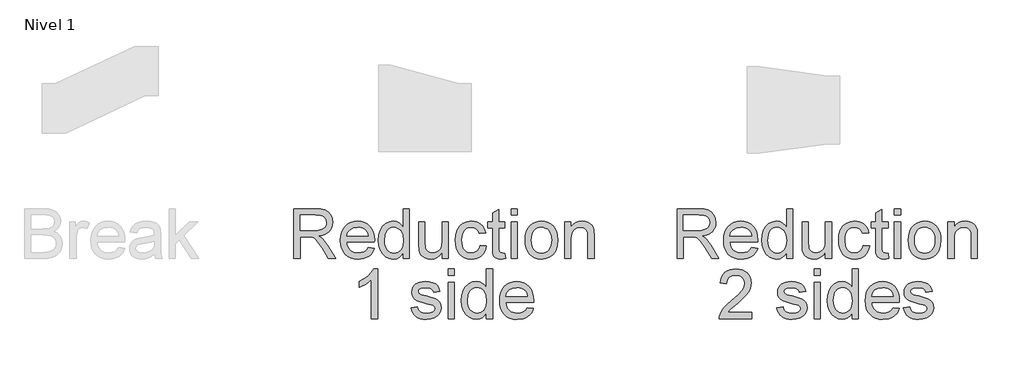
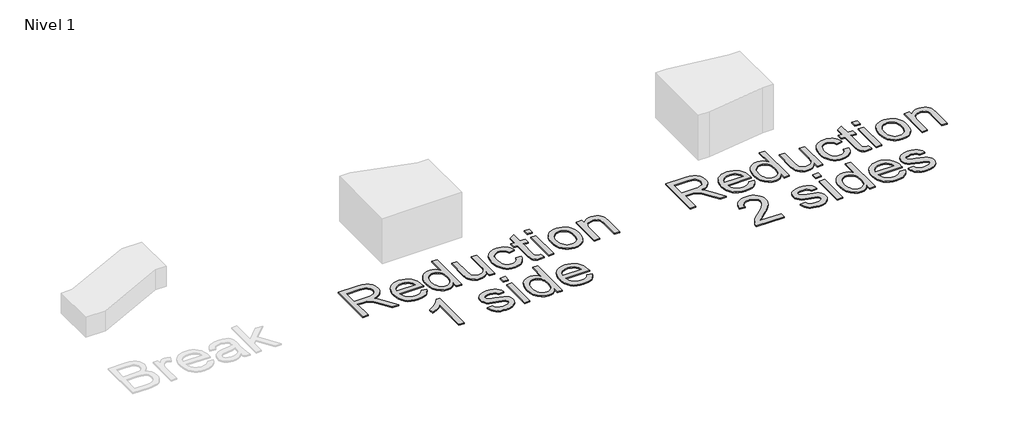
# One storey, part 5 of 6: 2 proxies.
"""IFC4 building model written with IfcOpenShell, lengths in millimetres."""

from ifc_helpers import new_model, si_unit, origin, origin_with_axes, place, context, project, spatial, polyline, outline, extrude, element, save

model = new_model("IFC4")

# Units and contexts
model_context = context("Model", 3, world=origin())
ifc_project = project(units=[si_unit("LENGTHUNIT", "METRE", prefix="MILLI")], contexts=[model_context])

# Site, building, storey
site = spatial("IfcSite", under=ifc_project)
building = spatial("IfcBuilding", under=site)
storey = spatial("IfcBuildingStorey", under=building, Name="Nivel 1", Elevation=0.0)

# Proxies
placement = place(None, origin())
element("IfcBuildingElementProxy", 1, Name="Texto de modelo 1", ObjectType="Texto de modelo 1", at=placement, inside=storey, context=model_context, shape_type="SweptSolid", body=[
    extrude(outline(polyline([(4836.6216122, -1016.3248037), (4836.6216122, -614.4995631), (5009.7714046, -614.4995631), (5056.308477, -617.2096271), (5090.1658833, -625.3398192), (5114.9120788, -640.3494046), (5134.115519, -663.6976486), (5146.4395658, -692.6499616), (5150.5475814, -724.4717542), (5148.8461272, -745.1099341), (5143.7417645, -764.0558569), (5135.2344934, -781.3095224), (5123.3243138, -796.8709308), (5107.8579416, -810.2434414), (5088.6820926, -820.9304133), (5065.7967668, -828.9318467), (5039.2019642, -834.2477415), (5067.749607, -855.7320501), (5108.4618812, -907.4317331), (5175.4654552, -1016.3248037), (5117.0948453, -1016.3248037), (5064.8065511, -933.03632), (5027.0373329, -877.9030716), (5012.9965034, -861.8266285), (5000.5007783, -851.8570264), (4976.6129741, -842.2920945), (4947.4767201, -840.5262609), (4886.8497673, -840.5262609), (4886.8497673, -1016.3248037), (4836.6216122, -1016.3248037)]), holes=[polyline([(4886.8497673, -790.2981059), (4999.274505, -790.2981059), (5031.5622814, -788.5200095), (5056.6150453, -783.1857206), (5075.4751289, -773.9396198), (5089.1848646, -760.4260878), (5097.5357859, -744.0798645), (5100.3194263, -726.3356896), (5095.0096629, -701.8347488), (5079.0803725, -682.0917483), (5066.9188069, -674.4949851), (5051.6731638, -669.0687257), (5011.9296456, -664.7277182), (4886.8497673, -664.7277182), (4886.8497673, -790.2981059)])]), origin_with_axes(), (0.0, 0.0, 1.0), 10.0),
    extrude(outline(polyline([(5438.7708619, -928.4255323), (5488.0179983, -934.7040517), (5480.4672204, -954.428658), (5470.2738234, -971.8110823), (5457.4378075, -986.8513245), (5441.9591725, -999.5493847), (5423.9973341, -1009.6354827), (5403.7117078, -1016.8398385), (5356.1690912, -1022.6033231), (5325.0033549, -1020.1170539), (5297.2343956, -1012.6582465), (5272.8622134, -1000.2269007), (5251.8868083, -982.8230167), (5235.0194189, -960.9309723), (5222.9712835, -935.0351455), (5215.7424023, -905.1355363), (5213.3327753, -871.2321448), (5215.7669278, -836.179122), (5223.0693854, -805.2831658), (5235.2401481, -778.5442761), (5252.2792158, -755.962453), (5273.1994386, -738.0220743), (5297.0136664, -725.2075182), (5323.7218993, -717.5187845), (5353.3241371, -714.9558732), (5381.9729475, -717.5126531), (5407.881037, -725.1829927), (5431.0484057, -737.966892), (5451.4750535, -755.8643511), (5468.1493049, -778.3971233), (5480.0594845, -805.0869621), (5487.2055922, -835.9338674), (5489.5876282, -870.9378392), (5489.2933226, -884.4758966), (5263.5609303, -884.4758966), (5266.4702638, -904.519334), (5272.2552081, -922.0734365), (5280.9157634, -937.1382042), (5292.4519297, -949.7136371), (5306.2260447, -959.6280569), (5321.6004464, -966.7097853), (5357.1501099, -972.375168), (5383.8828682, -969.7509431), (5406.3972463, -961.8782684), (5424.6932442, -948.2666346), (5438.7708619, -928.4255323)]), holes=[polyline([(5263.5609303, -834.2477415), (5439.3594731, -834.2477415), (5432.5659189, -807.711187), (5419.2485907, -788.728476), (5405.5511177, -778.4277801), (5389.9651839, -771.0701402), (5372.4907891, -766.6555563), (5353.1279334, -765.1840283), (5319.2705271, -769.8806551), (5291.2747073, -783.9705355), (5271.8137498, -805.9330907), (5263.5609303, -834.2477415)])]), origin_with_axes(), (0.0, 0.0, 1.0), 10.0),
    extrude(outline(polyline([(5721.8928454, -1016.3248037), (5721.8928454, -968.9416027), (5706.8648659, -992.4186054), (5688.6608385, -1009.187893), (5667.2807632, -1019.2494656), (5642.72464, -1022.6033231), (5610.2529226, -1017.7472807), (5580.5280574, -1003.1791537), (5555.3649289, -979.9167489), (5536.5784217, -948.9778731), (5524.8797742, -911.6133251), (5520.9802251, -869.0739038), (5524.5732059, -827.0617799), (5535.3521484, -789.1208835), (5553.3047897, -757.4094555), (5578.4188673, -734.085737), (5608.7936573, -719.7383392), (5642.5284363, -714.9558732), (5667.1029536, -718.3771758), (5688.8325168, -728.6410835), (5707.251142, -744.3741701), (5721.8928454, -764.2030097), (5721.8928454, -614.4995631), (5772.1210005, -614.4995631), (5772.1210005, -1016.3248037), (5721.8928454, -1016.3248037)]), holes=[polyline([(5571.2083802, -868.8777), (5572.6247258, -893.2345538), (5576.8737629, -914.3111264), (5583.9554913, -932.1074179), (5593.8699111, -946.6234283), (5618.5670557, -965.9372331), (5632.4423383, -970.7656843), (5647.3354277, -972.375168), (5662.2990278, -970.8392607), (5676.091537, -966.2315387), (5700.1632822, -947.8006507), (5709.6699661, -933.8916456), (5716.4604546, -916.7391476), (5721.8928454, -872.7036728), (5716.3623527, -824.5601823), (5709.4492369, -806.0250612), (5699.7708747, -791.1810226), (5688.0691616, -779.8073376), (5675.0859929, -771.6832769), (5660.8213685, -766.8088405), (5645.2752885, -765.1840283), (5630.0878935, -766.7444611), (5616.2126109, -771.4257595), (5603.6494408, -779.2279235), (5592.3983831, -790.1509531), (5583.1277568, -804.4339715), (5576.5058809, -822.3161022), (5571.2083802, -868.8777)])]), origin_with_axes(), (0.0, 0.0, 1.0), 10.0),
    extrude(outline(polyline([(6035.8188146, -1016.3248037), (6035.8188146, -965.6061393), (6017.645444, -990.5424072), (5996.4799666, -1008.3540271), (5972.3223822, -1019.0409991), (5945.172691, -1022.6033231), (5920.7085383, -1020.1017255), (5897.9366428, -1012.5969328), (5878.8313045, -1001.3152183), (5865.3668235, -987.4828553), (5856.3046637, -970.6829108), (5850.406289, -950.498452), (5847.4632331, -903.8019641), (5847.4632331, -721.2343926), (5897.6913881, -721.2343926), (5897.6913881, -880.1594145), (5900.732546, -931.3685883), (5908.0533977, -948.4505756), (5920.5981737, -961.43681), (5937.5330082, -969.6405785), (5958.0240354, -972.375168), (5979.6922849, -969.5792648), (5999.9625828, -961.1915554), (6016.6766881, -947.9845917), (6027.6763598, -930.7309262), (6033.7832009, -907.1006393), (6035.8188146, -874.763812), (6035.8188146, -721.2343926), (6086.0469697, -721.2343926), (6086.0469697, -1016.3248037), (6035.8188146, -1016.3248037)])), origin_with_axes(), (0.0, 0.0, 1.0), 10.0),
    extrude(outline(polyline([(6343.4662644, -909.5899742), (6393.6944195, -915.8684935), (6388.2313719, -939.5692911), (6379.6903782, -960.5416305), (6368.0714385, -978.7855118), (6353.3745528, -994.3009349), (6336.2189891, -1006.6832297), (6317.2240154, -1015.527726), (6296.3896318, -1020.8344238), (6273.7158381, -1022.6033231), (6245.5452744, -1020.135448), (6220.2871097, -1012.7318229), (6197.9413442, -1000.3924476), (6178.5079778, -983.1173223), (6162.7779568, -961.2314092), (6151.5422276, -935.059671), (6144.80079, -904.6021074), (6142.5536441, -869.8587187), (6146.3918796, -825.1610563), (6157.9065861, -786.4230822), (6177.2817045, -755.1408499), (6204.7011759, -732.8104127), (6237.5039871, -719.4195081), (6273.0291251, -714.9558732), (6295.3135769, -716.4887149), (6315.4704446, -721.0872398), (6333.499728, -728.7514481), (6349.4014273, -739.4813396), (6362.9057622, -753.0316597), (6373.7429526, -769.1571539), (6381.9129986, -787.857822), (6387.4159001, -809.133664), (6337.1877451, -815.4121834), (6328.0765343, -793.4986792), (6313.888552, -777.790118), (6295.4086131, -768.3355507), (6273.4215326, -765.1840283), (6256.3548737, -766.7352641), (6240.9620778, -771.3889713), (6227.2431451, -779.14515), (6215.1980754, -790.0038003), (6205.3909546, -804.216308), (6198.3858683, -822.0340593), (6194.1828165, -843.4570542), (6192.7817992, -868.4852926), (6198.2632409, -915.5619252), (6205.1150431, -933.4992382), (6214.7075661, -947.7025489), (6226.5135125, -958.4968197), (6240.0055847, -966.2070132), (6255.1837826, -970.8331293), (6272.0481064, -972.375168), (6298.0573635, -968.5246698), (6319.3822565, -956.9731751), (6334.8946139, -937.4263785), (6343.4662644, -909.5899742)])), origin_with_axes(), (0.0, 0.0, 1.0), 10.0),
    extrude(outline(polyline([(6544.3788847, -974.4353072), (6550.6574041, -1017.7963317), (6513.0843897, -1022.6033231), (6488.9758563, -1020.5186584), (6470.9986894, -1014.2646645), (6458.2944979, -1004.6261562), (6450.0048902, -992.3879485), (6445.4431535, -971.3696239), (6443.9225746, -935.3907648), (6443.9225746, -771.4625477), (6406.2514583, -771.4625477), (6406.2514583, -721.2343926), (6443.9225746, -721.2343926), (6443.9225746, -649.521929), (6494.1507297, -619.9932676), (6494.1507297, -721.2343926), (6544.3788847, -721.2343926), (6544.3788847, -771.4625477), (6494.1507297, -771.4625477), (6494.1507297, -933.9192368), (6496.79948, -959.8181292), (6505.3833932, -968.9906536), (6522.5021688, -972.375168), (6544.3788847, -974.4353072)])), origin_with_axes(), (0.0, 0.0, 1.0), 10.0),
    extrude(outline(polyline([(6594.6070398, -664.7277182), (6594.6070398, -614.4995631), (6644.8351949, -614.4995631), (6644.8351949, -664.7277182), (6594.6070398, -664.7277182)])), origin_with_axes(), (0.0, 0.0, 1.0), 10.0),
    extrude(outline(polyline([(6594.6070398, -1016.3248037), (6594.6070398, -721.2343926), (6644.8351949, -721.2343926), (6644.8351949, -1016.3248037), (6594.6070398, -1016.3248037)])), origin_with_axes(), (0.0, 0.0, 1.0), 10.0),
    extrude(outline(polyline([(6707.6203887, -868.7795982), (6710.3365841, -830.5627902), (6718.4851703, -797.6312203), (6732.0661473, -769.9848884), (6751.0795151, -747.6237944), (6770.2216416, -733.3315789), (6791.3503308, -723.1228535), (6814.4655829, -716.9976183), (6839.5673977, -714.9558732), (6867.278109, -717.4421424), (6892.3339385, -724.9009498), (6914.7348863, -737.3322956), (6934.4809524, -754.7361797), (6950.5972495, -776.5239908), (6962.1088903, -802.1071179), (6969.0158747, -831.4855609), (6971.3182029, -864.6593198), (6967.2469755, -915.4025097), (6955.0332932, -954.0301192), (6935.0327754, -982.9579067), (6907.6010413, -1004.6016308), (6875.0189593, -1018.1029), (6839.5673977, -1022.6033231), (6811.4520162, -1020.126251), (6786.1631947, -1012.6950347), (6763.7009332, -1000.3096742), (6744.0652317, -982.9701695), (6728.1206129, -960.9708262), (6716.7315995, -934.6059498), (6709.8981914, -903.8755405), (6707.6203887, -868.7795982)]), holes=[polyline([(6757.8485438, -868.6814963), (6759.3016777, -893.0444814), (6763.6610793, -914.1394482), (6770.9267487, -931.9663965), (6781.0986859, -946.5253265), (6793.4717837, -957.8346321), (6807.3409349, -965.9127076), (6822.7061396, -970.7595529), (6839.5673977, -972.375168), (6856.3428166, -970.7503559), (6871.6467076, -965.8759194), (6885.4790707, -957.7518587), (6897.8399057, -946.3781737), (6908.0118429, -931.6751566), (6915.2775123, -913.5630997), (6919.6369139, -892.042003), (6921.0900478, -867.1118665), (6919.6277169, -843.5214335), (6915.2407241, -822.9782898), (6907.9290694, -805.4824352), (6897.6927529, -791.0338698), (6885.2859326, -779.7245642), (6871.4627666, -771.6464887), (6856.223255, -766.7996434), (6839.5673977, -765.1840283), (6822.7061396, -766.793512), (6807.3409349, -771.6219632), (6793.4717837, -779.6693819), (6781.0986859, -790.935768), (6770.9267487, -805.4517784), (6763.6610793, -823.2480699), (6759.3016777, -844.3246425), (6757.8485438, -868.6814963)])]), origin_with_axes(), (0.0, 0.0, 1.0), 10.0),
    extrude(outline(polyline([(7027.8248773, -1016.3248037), (7027.8248773, -721.2343926), (7078.0530324, -721.2343926), (7078.0530324, -762.4371761), (7095.5029017, -741.6641061), (7116.4599127, -726.826199), (7140.9240654, -717.9234547), (7168.8953597, -714.9558732), (7193.653818, -717.3471062), (7216.3276117, -724.5208051), (7235.2367462, -735.5817904), (7248.7012272, -749.6348827), (7257.8369634, -766.6432936), (7263.7598636, -786.570235), (7266.4086139, -835.1306583), (7266.4086139, -1016.3248037), (7216.1804589, -1016.3248037), (7216.1804589, -841.899687), (7214.7334563, -815.9272182), (7210.3924488, -797.459542), (7202.384884, -784.2280529), (7189.9382099, -773.9641453), (7173.984394, -767.3790576), (7155.4554042, -765.1840283), (7126.0371073, -770.1136471), (7100.959818, -784.9025033), (7090.9380993, -796.9751641), (7083.7797288, -813.4746716), (7079.4847065, -834.4010257), (7078.0530324, -859.7542265), (7078.0530324, -1016.3248037), (7027.8248773, -1016.3248037)])), origin_with_axes(), (0.0, 0.0, 1.0), 10.0),
    extrude(outline(polyline([(5514.7017057, -1504.2240751), (5464.4735506, -1504.2240751), (5464.4735506, -1191.0829208), (5443.5042769, -1208.0422808), (5416.8941459, -1224.9771153), (5364.0172405, -1250.3364475), (5364.0172405, -1202.8551446), (5403.4664531, -1181.3953616), (5437.6426904, -1155.8643511), (5464.5839152, -1128.7146599), (5482.3280901, -1102.3988345), (5514.7017057, -1102.3988345), (5514.7017057, -1504.2240751)])), origin_with_axes(), (0.0, 0.0, 1.0), 10.0),
    extrude(outline(polyline([(5784.6780392, -1416.3248037), (5834.9061943, -1410.0462843), (5842.8279199, -1431.5305928), (5858.1563364, -1447.3249932), (5880.9895456, -1457.0370778), (5911.4256493, -1460.2744394), (5941.493871, -1457.306858), (5962.634823, -1448.4041137), (5975.1428109, -1435.5037184), (5979.3121401, -1420.5431839), (5975.1182854, -1407.7408905), (5962.5367212, -1397.9797549), (5910.8370381, -1383.6568825), (5835.2004999, -1359.0823652), (5816.0583734, -1346.7337929), (5802.1892222, -1330.3875696), (5793.7647245, -1311.0860276), (5790.9565586, -1289.8714992), (5793.2129015, -1270.4105417), (5799.9819302, -1252.4456376), (5810.6505081, -1236.6880254), (5824.6054984, -1223.8489438), (5856.5376556, -1208.9865112), (5877.4210902, -1204.3879863), (5899.7515273, -1202.8551446), (5932.443974, -1205.319954), (5960.8689895, -1212.7143821), (5983.7267241, -1224.3149277), (5999.7173281, -1239.3980895), (6010.3123296, -1259.0797762), (6016.9832564, -1284.4758966), (5966.7551014, -1290.754416), (5960.4152683, -1274.9477529), (5947.8704923, -1263.040639), (5928.9981459, -1255.5726345), (5903.6756019, -1253.0832997), (5874.8336535, -1255.4622699), (5855.6056879, -1262.5991806), (5844.7899572, -1272.8998765), (5841.1847137, -1284.7702022), (5847.1689275, -1299.3873802), (5865.9063838, -1310.4728909), (5909.1693064, -1321.1659943), (5982.8928582, -1344.8085438), (6002.3660785, -1356.1147838), (6017.1304092, -1371.5903531), (6026.4378237, -1391.2843026), (6029.5402952, -1415.2456832), (6025.8982635, -1440.0164042), (6014.9721682, -1463.3155972), (5997.1789424, -1483.316115), (5972.9355189, -1498.1908104), (5943.6521121, -1507.4246484), (5910.7389362, -1510.5025945), (5883.705741, -1509.0188037), (5860.0938482, -1504.5674316), (5839.9032581, -1497.148478), (5823.1339705, -1486.761943), (5809.4364975, -1473.4568775), (5798.4613513, -1457.2823325), (5790.2085319, -1438.2383079), (5784.6780392, -1416.3248037)])), origin_with_axes(), (0.0, 0.0, 1.0), 10.0),
    extrude(outline(polyline([(6086.0469697, -1152.6269896), (6086.0469697, -1102.3988345), (6136.2751248, -1102.3988345), (6136.2751248, -1152.6269896), (6086.0469697, -1152.6269896)])), origin_with_axes(), (0.0, 0.0, 1.0), 10.0),
    extrude(outline(polyline([(6086.0469697, -1504.2240751), (6086.0469697, -1209.133664), (6136.2751248, -1209.133664), (6136.2751248, -1504.2240751), (6086.0469697, -1504.2240751)])), origin_with_axes(), (0.0, 0.0, 1.0), 10.0),
    extrude(outline(polyline([(6393.6944195, -1504.2240751), (6393.6944195, -1456.8408741), (6378.66644, -1480.3178768), (6360.4624126, -1497.0871644), (6339.0823373, -1507.1487369), (6314.5262141, -1510.5025945), (6282.0544967, -1505.6465521), (6252.3296315, -1491.0784251), (6227.166503, -1467.8160203), (6208.3799958, -1436.8771445), (6196.6813484, -1399.5125965), (6192.7817992, -1356.9731751), (6196.37478, -1314.9610513), (6207.1537225, -1277.0201549), (6225.1063639, -1245.3087269), (6250.2204414, -1221.9850084), (6280.5952315, -1207.6376106), (6314.3300104, -1202.8551446), (6338.9045277, -1206.2764472), (6360.6340909, -1216.5403548), (6379.0527161, -1232.2734415), (6393.6944195, -1252.102281), (6393.6944195, -1102.3988345), (6443.9225746, -1102.3988345), (6443.9225746, -1504.2240751), (6393.6944195, -1504.2240751)]), holes=[polyline([(6243.0099543, -1356.7769714), (6244.4263, -1381.1338252), (6248.675337, -1402.2103978), (6255.7570654, -1420.0066893), (6265.6714852, -1434.5226997), (6290.3686298, -1453.8365045), (6304.2439124, -1458.6649557), (6319.1370018, -1460.2744394), (6334.100602, -1458.7385321), (6347.8931111, -1454.1308101), (6371.9648563, -1435.6999221), (6381.4715402, -1421.790917), (6388.2620287, -1404.638419), (6393.6944195, -1360.6029442), (6388.1639268, -1312.4594537), (6381.250811, -1293.9243325), (6371.5724489, -1279.080294), (6359.8707357, -1267.706609), (6346.887567, -1259.5825483), (6332.6229426, -1254.7081118), (6317.0768626, -1253.0832997), (6301.8894676, -1254.6437325), (6288.014185, -1259.3250309), (6275.4510149, -1267.1271949), (6264.1999572, -1278.0502244), (6254.9293309, -1292.3332429), (6248.307455, -1310.2153736), (6243.0099543, -1356.7769714)])]), origin_with_axes(), (0.0, 0.0, 1.0), 10.0),
    extrude(outline(polyline([(6725.8673357, -1416.3248037), (6775.1144721, -1422.6033231), (6767.5636942, -1442.3279294), (6757.3702972, -1459.7103537), (6744.5342813, -1474.7505959), (6729.0556463, -1487.4486561), (6711.0938079, -1497.5347541), (6690.8081815, -1504.7391099), (6643.265565, -1510.5025945), (6612.0998287, -1508.0163253), (6584.3308694, -1500.5575179), (6559.9586872, -1488.1261721), (6538.9832821, -1470.722288), (6522.1158927, -1448.8302437), (6510.0677573, -1422.9344169), (6502.8388761, -1393.0348077), (6500.429249, -1359.1314162), (6502.8634016, -1324.0783934), (6510.1658592, -1293.1824372), (6522.3366219, -1266.4435475), (6539.3756896, -1243.8617244), (6560.2959124, -1225.9213457), (6584.1101402, -1213.1067896), (6610.8183731, -1205.4180559), (6640.4206109, -1202.8551446), (6669.0694213, -1205.4119245), (6694.9775108, -1213.0822641), (6718.1448795, -1225.8661634), (6738.5715273, -1243.7636225), (6755.2457787, -1266.2963947), (6767.1559583, -1292.9862334), (6774.302066, -1323.8331387), (6776.684102, -1358.8371106), (6776.3897964, -1372.375168), (6550.6574041, -1372.375168), (6553.5667376, -1392.4186054), (6559.3516819, -1409.9727079), (6568.0122372, -1425.0374756), (6579.5484035, -1437.6129085), (6593.3225185, -1447.5273283), (6608.6969202, -1454.6090567), (6644.2465837, -1460.2744394), (6670.979342, -1457.6502145), (6693.4937201, -1449.7775398), (6711.789718, -1436.165906), (6725.8673357, -1416.3248037)]), holes=[polyline([(6550.6574041, -1322.1470129), (6726.4559469, -1322.1470129), (6719.6623927, -1295.6104583), (6706.3450645, -1276.6277474), (6692.6475915, -1266.3270515), (6677.0616577, -1258.9694116), (6659.5872629, -1254.5548277), (6640.2244072, -1253.0832997), (6606.3670009, -1257.7799265), (6578.3711811, -1271.8698069), (6558.9102235, -1293.832362), (6550.6574041, -1322.1470129)])]), origin_with_axes(), (0.0, 0.0, 1.0), 10.0),
])
element("IfcBuildingElementProxy", 2, Name="Texto de modelo 1", ObjectType="Texto de modelo 1", at=placement, inside=storey, context=model_context, shape_type="SweptSolid", body=[
    extrude(outline(polyline([(7936.6216122, -1016.3248037), (7936.6216122, -614.4995631), (8109.7714046, -614.4995631), (8156.308477, -617.2096271), (8190.1658833, -625.3398192), (8214.9120788, -640.3494046), (8234.115519, -663.6976486), (8246.4395658, -692.6499616), (8250.5475814, -724.4717542), (8248.8461272, -745.1099341), (8243.7417645, -764.0558569), (8235.2344934, -781.3095224), (8223.3243138, -796.8709308), (8207.8579416, -810.2434414), (8188.6820926, -820.9304133), (8165.7967668, -828.9318467), (8139.2019642, -834.2477415), (8167.749607, -855.7320501), (8208.4618812, -907.4317331), (8275.4654552, -1016.3248037), (8217.0948453, -1016.3248037), (8164.8065511, -933.03632), (8127.0373329, -877.9030716), (8112.9965034, -861.8266285), (8100.5007783, -851.8570264), (8076.6129741, -842.2920945), (8047.4767201, -840.5262609), (7986.8497673, -840.5262609), (7986.8497673, -1016.3248037), (7936.6216122, -1016.3248037)]), holes=[polyline([(7986.8497673, -790.2981059), (8099.274505, -790.2981059), (8131.5622814, -788.5200095), (8156.6150453, -783.1857206), (8175.4751289, -773.9396198), (8189.1848646, -760.4260878), (8197.5357859, -744.0798645), (8200.3194263, -726.3356896), (8195.0096629, -701.8347488), (8179.0803725, -682.0917483), (8166.9188069, -674.4949851), (8151.6731638, -669.0687257), (8111.9296456, -664.7277182), (7986.8497673, -664.7277182), (7986.8497673, -790.2981059)])]), origin_with_axes(), (0.0, 0.0, 1.0), 10.0),
    extrude(outline(polyline([(8538.7708619, -928.4255323), (8588.0179983, -934.7040517), (8580.4672204, -954.428658), (8570.2738234, -971.8110823), (8557.4378075, -986.8513245), (8541.9591725, -999.5493847), (8523.9973341, -1009.6354827), (8503.7117078, -1016.8398385), (8456.1690912, -1022.6033231), (8425.0033549, -1020.1170539), (8397.2343956, -1012.6582465), (8372.8622134, -1000.2269007), (8351.8868083, -982.8230167), (8335.0194189, -960.9309723), (8322.9712835, -935.0351455), (8315.7424023, -905.1355363), (8313.3327753, -871.2321448), (8315.7669278, -836.179122), (8323.0693854, -805.2831658), (8335.2401481, -778.5442761), (8352.2792158, -755.962453), (8373.1994386, -738.0220743), (8397.0136664, -725.2075182), (8423.7218993, -717.5187845), (8453.3241371, -714.9558732), (8481.9729475, -717.5126531), (8507.881037, -725.1829927), (8531.0484057, -737.966892), (8551.4750535, -755.8643511), (8568.1493049, -778.3971233), (8580.0594845, -805.0869621), (8587.2055922, -835.9338674), (8589.5876282, -870.9378392), (8589.2933226, -884.4758966), (8363.5609303, -884.4758966), (8366.4702638, -904.519334), (8372.2552081, -922.0734365), (8380.9157634, -937.1382042), (8392.4519297, -949.7136371), (8406.2260447, -959.6280569), (8421.6004464, -966.7097853), (8457.1501099, -972.375168), (8483.8828682, -969.7509431), (8506.3972463, -961.8782684), (8524.6932442, -948.2666346), (8538.7708619, -928.4255323)]), holes=[polyline([(8363.5609303, -834.2477415), (8539.3594731, -834.2477415), (8532.5659189, -807.711187), (8519.2485907, -788.728476), (8505.5511177, -778.4277801), (8489.9651839, -771.0701402), (8472.4907891, -766.6555563), (8453.1279334, -765.1840283), (8419.2705271, -769.8806551), (8391.2747073, -783.9705355), (8371.8137498, -805.9330907), (8363.5609303, -834.2477415)])]), origin_with_axes(), (0.0, 0.0, 1.0), 10.0),
    extrude(outline(polyline([(8821.8928454, -1016.3248037), (8821.8928454, -968.9416027), (8806.8648659, -992.4186054), (8788.6608385, -1009.187893), (8767.2807632, -1019.2494656), (8742.72464, -1022.6033231), (8710.2529226, -1017.7472807), (8680.5280574, -1003.1791537), (8655.3649289, -979.9167489), (8636.5784217, -948.9778731), (8624.8797742, -911.6133251), (8620.9802251, -869.0739038), (8624.5732059, -827.0617799), (8635.3521484, -789.1208835), (8653.3047897, -757.4094555), (8678.4188673, -734.085737), (8708.7936573, -719.7383392), (8742.5284363, -714.9558732), (8767.1029536, -718.3771758), (8788.8325168, -728.6410835), (8807.251142, -744.3741701), (8821.8928454, -764.2030097), (8821.8928454, -614.4995631), (8872.1210005, -614.4995631), (8872.1210005, -1016.3248037), (8821.8928454, -1016.3248037)]), holes=[polyline([(8671.2083802, -868.8777), (8672.6247258, -893.2345538), (8676.8737629, -914.3111264), (8683.9554913, -932.1074179), (8693.8699111, -946.6234283), (8718.5670557, -965.9372331), (8732.4423383, -970.7656843), (8747.3354277, -972.375168), (8762.2990278, -970.8392607), (8776.091537, -966.2315387), (8800.1632822, -947.8006507), (8809.6699661, -933.8916456), (8816.4604546, -916.7391476), (8821.8928454, -872.7036728), (8816.3623527, -824.5601823), (8809.4492369, -806.0250612), (8799.7708747, -791.1810226), (8788.0691616, -779.8073376), (8775.0859929, -771.6832769), (8760.8213685, -766.8088405), (8745.2752885, -765.1840283), (8730.0878935, -766.7444611), (8716.2126109, -771.4257595), (8703.6494408, -779.2279235), (8692.3983831, -790.1509531), (8683.1277568, -804.4339715), (8676.5058809, -822.3161022), (8671.2083802, -868.8777)])]), origin_with_axes(), (0.0, 0.0, 1.0), 10.0),
    extrude(outline(polyline([(9135.8188146, -1016.3248037), (9135.8188146, -965.6061393), (9117.645444, -990.5424072), (9096.4799666, -1008.3540271), (9072.3223822, -1019.0409991), (9045.172691, -1022.6033231), (9020.7085383, -1020.1017255), (8997.9366428, -1012.5969328), (8978.8313045, -1001.3152183), (8965.3668235, -987.4828553), (8956.3046637, -970.6829108), (8950.406289, -950.498452), (8947.4632331, -903.8019641), (8947.4632331, -721.2343926), (8997.6913881, -721.2343926), (8997.6913881, -880.1594145), (9000.732546, -931.3685883), (9008.0533977, -948.4505756), (9020.5981737, -961.43681), (9037.5330082, -969.6405785), (9058.0240354, -972.375168), (9079.6922849, -969.5792648), (9099.9625828, -961.1915554), (9116.6766881, -947.9845917), (9127.6763598, -930.7309262), (9133.7832009, -907.1006393), (9135.8188146, -874.763812), (9135.8188146, -721.2343926), (9186.0469697, -721.2343926), (9186.0469697, -1016.3248037), (9135.8188146, -1016.3248037)])), origin_with_axes(), (0.0, 0.0, 1.0), 10.0),
    extrude(outline(polyline([(9443.4662644, -909.5899742), (9493.6944195, -915.8684935), (9488.2313719, -939.5692911), (9479.6903782, -960.5416305), (9468.0714385, -978.7855118), (9453.3745528, -994.3009349), (9436.2189891, -1006.6832297), (9417.2240154, -1015.527726), (9396.3896318, -1020.8344238), (9373.7158381, -1022.6033231), (9345.5452744, -1020.135448), (9320.2871097, -1012.7318229), (9297.9413442, -1000.3924476), (9278.5079778, -983.1173223), (9262.7779568, -961.2314092), (9251.5422276, -935.059671), (9244.80079, -904.6021074), (9242.5536441, -869.8587187), (9246.3918796, -825.1610563), (9257.9065861, -786.4230822), (9277.2817045, -755.1408499), (9304.7011759, -732.8104127), (9337.5039871, -719.4195081), (9373.0291251, -714.9558732), (9395.3135769, -716.4887149), (9415.4704446, -721.0872398), (9433.499728, -728.7514481), (9449.4014273, -739.4813396), (9462.9057622, -753.0316597), (9473.7429526, -769.1571539), (9481.9129986, -787.857822), (9487.4159001, -809.133664), (9437.1877451, -815.4121834), (9428.0765343, -793.4986792), (9413.888552, -777.790118), (9395.4086131, -768.3355507), (9373.4215326, -765.1840283), (9356.3548737, -766.7352641), (9340.9620778, -771.3889713), (9327.2431451, -779.14515), (9315.1980754, -790.0038003), (9305.3909546, -804.216308), (9298.3858683, -822.0340593), (9294.1828165, -843.4570542), (9292.7817992, -868.4852926), (9298.2632409, -915.5619252), (9305.1150431, -933.4992382), (9314.7075661, -947.7025489), (9326.5135125, -958.4968197), (9340.0055847, -966.2070132), (9355.1837826, -970.8331293), (9372.0481064, -972.375168), (9398.0573635, -968.5246698), (9419.3822565, -956.9731751), (9434.8946139, -937.4263785), (9443.4662644, -909.5899742)])), origin_with_axes(), (0.0, 0.0, 1.0), 10.0),
    extrude(outline(polyline([(9644.3788847, -974.4353072), (9650.6574041, -1017.7963317), (9613.0843897, -1022.6033231), (9588.9758563, -1020.5186584), (9570.9986894, -1014.2646645), (9558.2944979, -1004.6261562), (9550.0048902, -992.3879485), (9545.4431535, -971.3696239), (9543.9225746, -935.3907648), (9543.9225746, -771.4625477), (9506.2514583, -771.4625477), (9506.2514583, -721.2343926), (9543.9225746, -721.2343926), (9543.9225746, -649.521929), (9594.1507297, -619.9932676), (9594.1507297, -721.2343926), (9644.3788847, -721.2343926), (9644.3788847, -771.4625477), (9594.1507297, -771.4625477), (9594.1507297, -933.9192368), (9596.79948, -959.8181292), (9605.3833932, -968.9906536), (9622.5021688, -972.375168), (9644.3788847, -974.4353072)])), origin_with_axes(), (0.0, 0.0, 1.0), 10.0),
    extrude(outline(polyline([(9694.6070398, -664.7277182), (9694.6070398, -614.4995631), (9744.8351949, -614.4995631), (9744.8351949, -664.7277182), (9694.6070398, -664.7277182)])), origin_with_axes(), (0.0, 0.0, 1.0), 10.0),
    extrude(outline(polyline([(9694.6070398, -1016.3248037), (9694.6070398, -721.2343926), (9744.8351949, -721.2343926), (9744.8351949, -1016.3248037), (9694.6070398, -1016.3248037)])), origin_with_axes(), (0.0, 0.0, 1.0), 10.0),
    extrude(outline(polyline([(9807.6203887, -868.7795982), (9810.3365841, -830.5627902), (9818.4851703, -797.6312203), (9832.0661473, -769.9848884), (9851.0795151, -747.6237944), (9870.2216416, -733.3315789), (9891.3503308, -723.1228535), (9914.4655829, -716.9976183), (9939.5673977, -714.9558732), (9967.278109, -717.4421424), (9992.3339385, -724.9009498), (10014.7348863, -737.3322956), (10034.4809524, -754.7361797), (10050.5972495, -776.5239908), (10062.1088903, -802.1071179), (10069.0158747, -831.4855609), (10071.3182029, -864.6593198), (10067.2469755, -915.4025097), (10055.0332932, -954.0301192), (10035.0327754, -982.9579067), (10007.6010413, -1004.6016308), (9975.0189593, -1018.1029), (9939.5673977, -1022.6033231), (9911.4520162, -1020.126251), (9886.1631947, -1012.6950347), (9863.7009332, -1000.3096742), (9844.0652317, -982.9701695), (9828.1206129, -960.9708262), (9816.7315995, -934.6059498), (9809.8981914, -903.8755405), (9807.6203887, -868.7795982)]), holes=[polyline([(9857.8485438, -868.6814963), (9859.3016777, -893.0444814), (9863.6610793, -914.1394482), (9870.9267487, -931.9663965), (9881.0986859, -946.5253265), (9893.4717837, -957.8346321), (9907.3409349, -965.9127076), (9922.7061396, -970.7595529), (9939.5673977, -972.375168), (9956.3428166, -970.7503559), (9971.6467076, -965.8759194), (9985.4790707, -957.7518587), (9997.8399057, -946.3781737), (10008.0118429, -931.6751566), (10015.2775123, -913.5630997), (10019.6369139, -892.042003), (10021.0900478, -867.1118665), (10019.6277169, -843.5214335), (10015.2407241, -822.9782898), (10007.9290694, -805.4824352), (9997.6927529, -791.0338698), (9985.2859326, -779.7245642), (9971.4627666, -771.6464887), (9956.223255, -766.7996434), (9939.5673977, -765.1840283), (9922.7061396, -766.793512), (9907.3409349, -771.6219632), (9893.4717837, -779.6693819), (9881.0986859, -790.935768), (9870.9267487, -805.4517784), (9863.6610793, -823.2480699), (9859.3016777, -844.3246425), (9857.8485438, -868.6814963)])]), origin_with_axes(), (0.0, 0.0, 1.0), 10.0),
    extrude(outline(polyline([(10127.8248773, -1016.3248037), (10127.8248773, -721.2343926), (10178.0530324, -721.2343926), (10178.0530324, -762.4371761), (10195.5029017, -741.6641061), (10216.4599127, -726.826199), (10240.9240654, -717.9234547), (10268.8953597, -714.9558732), (10293.653818, -717.3471062), (10316.3276117, -724.5208051), (10335.2367462, -735.5817904), (10348.7012272, -749.6348827), (10357.8369634, -766.6432936), (10363.7598636, -786.570235), (10366.4086139, -835.1306583), (10366.4086139, -1016.3248037), (10316.1804589, -1016.3248037), (10316.1804589, -841.899687), (10314.7334563, -815.9272182), (10310.3924488, -797.459542), (10302.384884, -784.2280529), (10289.9382099, -773.9641453), (10273.984394, -767.3790576), (10255.4554042, -765.1840283), (10226.0371073, -770.1136471), (10200.959818, -784.9025033), (10190.9380993, -796.9751641), (10183.7797288, -813.4746716), (10179.4847065, -834.4010257), (10178.0530324, -859.7542265), (10178.0530324, -1016.3248037), (10127.8248773, -1016.3248037)])), origin_with_axes(), (0.0, 0.0, 1.0), 10.0),
    extrude(outline(polyline([(8542.4987328, -1453.99592), (8542.4987328, -1504.2240751), (8278.8009186, -1504.2240751), (8279.9045646, -1486.5412138), (8284.1965212, -1469.5941166), (8296.5818817, -1442.5302645), (8314.7062014, -1416.2757528), (8340.9239249, -1388.7949677), (8377.5894971, -1358.0522957), (8431.7907777, -1309.9088052), (8464.3115461, -1274.3714045), (8480.5719303, -1245.5294561), (8485.9920583, -1217.4723226), (8480.8784986, -1192.3214568), (8465.5378194, -1171.4134968), (8441.9565835, -1157.3236164), (8412.1213537, -1152.6269896), (8380.7900704, -1157.2132518), (8356.4485451, -1170.9720384), (8340.7399839, -1192.8242289), (8335.3075931, -1221.6907028), (8285.079438, -1215.4121834), (8289.3989858, -1189.4826341), (8297.2563321, -1166.8272346), (8308.6514769, -1147.4459848), (8323.5844202, -1131.3388848), (8341.7118055, -1118.6776128), (8362.6902763, -1109.633847), (8386.5198325, -1104.2075876), (8413.2004742, -1102.3988345), (8440.1202392, -1104.4099227), (8464.0785541, -1110.4431874), (8485.075419, -1120.4986286), (8503.1108338, -1134.5762463), (8517.5961874, -1151.6337082), (8527.9428685, -1170.6286818), (8534.1508772, -1191.5611674), (8536.2202134, -1214.4311647), (8533.988396, -1238.453859), (8527.2929436, -1262.0596204), (8515.4103552, -1286.0700519), (8497.6171294, -1311.3067568), (8469.2534275, -1341.4362922), (8425.6594111, -1380.1252154), (8367.8774124, -1428.4403841), (8345.2158815, -1453.99592), (8542.4987328, -1453.99592)])), origin_with_axes(), (0.0, 0.0, 1.0), 10.0),
    extrude(outline(polyline([(8743.4113531, -1416.3248037), (8793.6395082, -1410.0462843), (8801.5612338, -1431.5305928), (8816.8896502, -1447.3249932), (8839.7228594, -1457.0370778), (8870.1589632, -1460.2744394), (8900.2271849, -1457.306858), (8921.3681369, -1448.4041137), (8933.8761247, -1435.5037184), (8938.045454, -1420.5431839), (8933.8515992, -1407.7408905), (8921.270035, -1397.9797549), (8869.570352, -1383.6568825), (8793.9338138, -1359.0823652), (8774.7916873, -1346.7337929), (8760.922536, -1330.3875696), (8752.4980384, -1311.0860276), (8749.6898725, -1289.8714992), (8751.9462154, -1270.4105417), (8758.7152441, -1252.4456376), (8769.3838219, -1236.6880254), (8783.3388123, -1223.8489438), (8815.2709695, -1208.9865112), (8836.1544041, -1204.3879863), (8858.4848412, -1202.8551446), (8891.1772878, -1205.319954), (8919.6023033, -1212.7143821), (8942.4600379, -1224.3149277), (8958.450642, -1239.3980895), (8969.0456435, -1259.0797762), (8975.7165703, -1284.4758966), (8925.4884152, -1290.754416), (8919.1485822, -1274.9477529), (8906.6038061, -1263.040639), (8887.7314598, -1255.5726345), (8862.4089158, -1253.0832997), (8833.5669674, -1255.4622699), (8814.3390017, -1262.5991806), (8803.5232711, -1272.8998765), (8799.9180275, -1284.7702022), (8805.9022413, -1299.3873802), (8824.6396976, -1310.4728909), (8867.9026202, -1321.1659943), (8941.6261721, -1344.8085438), (8961.0993924, -1356.1147838), (8975.8637231, -1371.5903531), (8985.1711376, -1391.2843026), (8988.2736091, -1415.2456832), (8984.6315773, -1440.0164042), (8973.7054821, -1463.3155972), (8955.9122562, -1483.316115), (8931.6688327, -1498.1908104), (8902.3854259, -1507.4246484), (8869.4722501, -1510.5025945), (8842.4390548, -1509.0188037), (8818.8271621, -1504.5674316), (8798.6365719, -1497.148478), (8781.8672843, -1486.761943), (8768.1698114, -1473.4568775), (8757.1946652, -1457.2823325), (8748.9418457, -1438.2383079), (8743.4113531, -1416.3248037)])), origin_with_axes(), (0.0, 0.0, 1.0), 10.0),
    extrude(outline(polyline([(9044.7802835, -1152.6269896), (9044.7802835, -1102.3988345), (9095.0084386, -1102.3988345), (9095.0084386, -1152.6269896), (9044.7802835, -1152.6269896)])), origin_with_axes(), (0.0, 0.0, 1.0), 10.0),
    extrude(outline(polyline([(9044.7802835, -1504.2240751), (9044.7802835, -1209.133664), (9095.0084386, -1209.133664), (9095.0084386, -1504.2240751), (9044.7802835, -1504.2240751)])), origin_with_axes(), (0.0, 0.0, 1.0), 10.0),
    extrude(outline(polyline([(9352.4277334, -1504.2240751), (9352.4277334, -1456.8408741), (9337.3997539, -1480.3178768), (9319.1957265, -1497.0871644), (9297.8156512, -1507.1487369), (9273.259528, -1510.5025945), (9240.7878106, -1505.6465521), (9211.0629453, -1491.0784251), (9185.8998169, -1467.8160203), (9167.1133097, -1436.8771445), (9155.4146622, -1399.5125965), (9151.5151131, -1356.9731751), (9155.1080939, -1314.9610513), (9165.8870363, -1277.0201549), (9183.8396777, -1245.3087269), (9208.9537552, -1221.9850084), (9239.3285453, -1207.6376106), (9273.0633243, -1202.8551446), (9297.6378415, -1206.2764472), (9319.3674047, -1216.5403548), (9337.78603, -1232.2734415), (9352.4277334, -1252.102281), (9352.4277334, -1102.3988345), (9402.6558884, -1102.3988345), (9402.6558884, -1504.2240751), (9352.4277334, -1504.2240751)]), holes=[polyline([(9201.7432681, -1356.7769714), (9203.1596138, -1381.1338252), (9207.4086509, -1402.2103978), (9214.4903793, -1420.0066893), (9224.404799, -1434.5226997), (9249.1019436, -1453.8365045), (9262.9772262, -1458.6649557), (9277.8703157, -1460.2744394), (9292.8339158, -1458.7385321), (9306.626425, -1454.1308101), (9330.6981702, -1435.6999221), (9340.2048541, -1421.790917), (9346.9953426, -1404.638419), (9352.4277334, -1360.6029442), (9346.8972407, -1312.4594537), (9339.9841249, -1293.9243325), (9330.3057627, -1279.080294), (9318.6040496, -1267.706609), (9305.6208808, -1259.5825483), (9291.3562565, -1254.7081118), (9275.8101765, -1253.0832997), (9260.6227815, -1254.6437325), (9246.7474989, -1259.3250309), (9234.1843287, -1267.1271949), (9222.9332711, -1278.0502244), (9213.6626448, -1292.3332429), (9207.0407689, -1310.2153736), (9201.7432681, -1356.7769714)])]), origin_with_axes(), (0.0, 0.0, 1.0), 10.0),
    extrude(outline(polyline([(9684.6006495, -1416.3248037), (9733.847786, -1422.6033231), (9726.297008, -1442.3279294), (9716.1036111, -1459.7103537), (9703.2675951, -1474.7505959), (9687.7889602, -1487.4486561), (9669.8271218, -1497.5347541), (9649.5414954, -1504.7391099), (9601.9988789, -1510.5025945), (9570.8331425, -1508.0163253), (9543.0641833, -1500.5575179), (9518.6920011, -1488.1261721), (9497.716596, -1470.722288), (9480.8492065, -1448.8302437), (9468.8010712, -1422.9344169), (9461.57219, -1393.0348077), (9459.1625629, -1359.1314162), (9461.5967154, -1324.0783934), (9468.899173, -1293.1824372), (9481.0699357, -1266.4435475), (9498.1090035, -1243.8617244), (9519.0292262, -1225.9213457), (9542.8434541, -1213.1067896), (9569.5516869, -1205.4180559), (9599.1539248, -1202.8551446), (9627.8027352, -1205.4119245), (9653.7108247, -1213.0822641), (9676.8781933, -1225.8661634), (9697.3048411, -1243.7636225), (9713.9790925, -1266.2963947), (9725.8892721, -1292.9862334), (9733.0353799, -1323.8331387), (9735.4174158, -1358.8371106), (9735.1231102, -1372.375168), (9509.390718, -1372.375168), (9512.3000514, -1392.4186054), (9518.0849958, -1409.9727079), (9526.7455511, -1425.0374756), (9538.2817173, -1437.6129085), (9552.0558324, -1447.5273283), (9567.4302341, -1454.6090567), (9602.9798975, -1460.2744394), (9629.7126559, -1457.6502145), (9652.227034, -1449.7775398), (9670.5230319, -1436.165906), (9684.6006495, -1416.3248037)]), holes=[polyline([(9509.390718, -1322.1470129), (9685.1892607, -1322.1470129), (9678.3957066, -1295.6104583), (9665.0783783, -1276.6277474), (9651.3809054, -1266.3270515), (9635.7949715, -1258.9694116), (9618.3205767, -1254.5548277), (9598.9577211, -1253.0832997), (9565.1003148, -1257.7799265), (9537.1044949, -1271.8698069), (9517.6435374, -1293.832362), (9509.390718, -1322.1470129)])]), origin_with_axes(), (0.0, 0.0, 1.0), 10.0),
    extrude(outline(polyline([(9766.8100127, -1416.3248037), (9817.0381678, -1410.0462843), (9824.9598934, -1431.5305928), (9840.2883099, -1447.3249932), (9863.1215191, -1457.0370778), (9893.5576228, -1460.2744394), (9923.6258445, -1457.306858), (9944.7667965, -1448.4041137), (9957.2747844, -1435.5037184), (9961.4441136, -1420.5431839), (9957.2502589, -1407.7408905), (9944.6686947, -1397.9797549), (9892.9690116, -1383.6568825), (9817.3324734, -1359.0823652), (9798.1903469, -1346.7337929), (9784.3211957, -1330.3875696), (9775.896698, -1311.0860276), (9773.0885321, -1289.8714992), (9775.344875, -1270.4105417), (9782.1139037, -1252.4456376), (9792.7824816, -1236.6880254), (9806.7374719, -1223.8489438), (9838.6696291, -1208.9865112), (9859.5530637, -1204.3879863), (9881.8835008, -1202.8551446), (9914.5759475, -1205.319954), (9943.000963, -1212.7143821), (9965.8586976, -1224.3149277), (9981.8493016, -1239.3980895), (9992.4443031, -1259.0797762), (9999.1152299, -1284.4758966), (9948.8870749, -1290.754416), (9942.5472418, -1274.9477529), (9930.0024658, -1263.040639), (9911.1301194, -1255.5726345), (9885.8075754, -1253.0832997), (9856.965627, -1255.4622699), (9837.7376614, -1262.5991806), (9826.9219307, -1272.8998765), (9823.3166872, -1284.7702022), (9829.300901, -1299.3873802), (9848.0383573, -1310.4728909), (9891.3012799, -1321.1659943), (9965.0248317, -1344.8085438), (9984.498052, -1356.1147838), (9999.2623827, -1371.5903531), (10008.5697972, -1391.2843026), (10011.6722687, -1415.2456832), (10008.030237, -1440.0164042), (9997.1041417, -1463.3155972), (9979.3109159, -1483.316115), (9955.0674924, -1498.1908104), (9925.7840856, -1507.4246484), (9892.8709097, -1510.5025945), (9865.8377145, -1509.0188037), (9842.2258217, -1504.5674316), (9822.0352316, -1497.148478), (9805.265944, -1486.761943), (9791.568471, -1473.4568775), (9780.5933248, -1457.2823325), (9772.3405054, -1438.2383079), (9766.8100127, -1416.3248037)])), origin_with_axes(), (0.0, 0.0, 1.0), 10.0),
])

save(model, "model.ifc")
